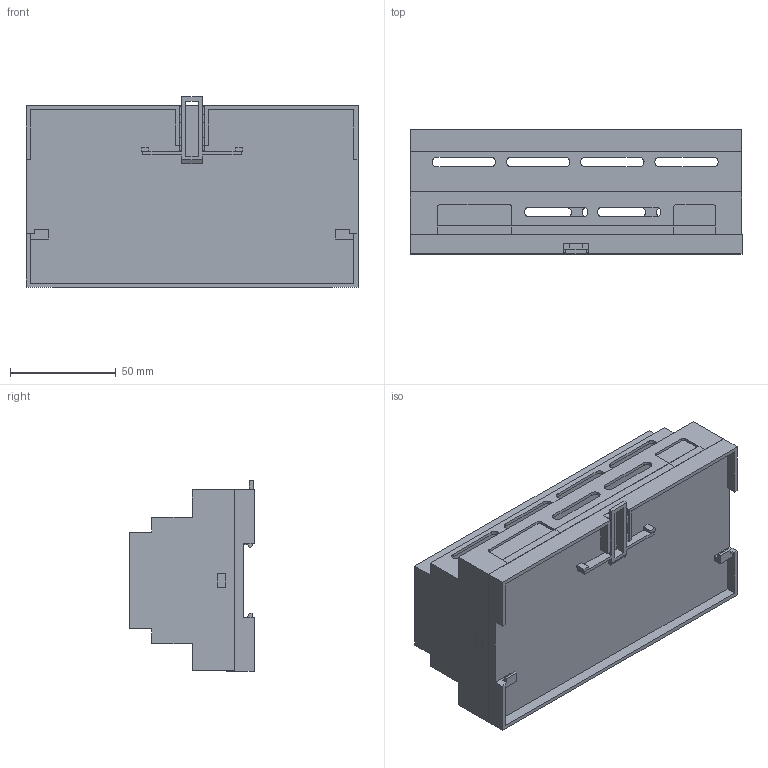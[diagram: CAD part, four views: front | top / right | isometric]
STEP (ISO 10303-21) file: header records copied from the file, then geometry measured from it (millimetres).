
FILE_DESCRIPTION((''),'2;1');
FILE_NAME('J:\WIP\Magpowr WEB\3D (Models)\Tension Controls\Power Supply Unit\PS-90\PS-90.stp','2013-09-30T14:30:13',('lzuniga'),(''),'Autodesk Inventor 2013','Autodesk Inventor 2013','');
FILE_SCHEMA(('AUTOMOTIVE_DESIGN { 1 0 10303 214 1 1 1 1 }'));
Length unit declared in the file: inch
Products named in the file (1): PS-90
Bounding box: 156.97 x 58.8 x 89.92 mm (x, y, z)
Volume: 192596.2 mm3; surface area: 97784.9 mm2
Topology: 1 solids, 1 shells, 830 faces, 2227 edges, 1480 vertices
Faces by surface type: plane 574, bspline 205, cylinder 51
Full cylindrical faces by diameter (mm): 3.175 x11
Entity records: 27487 total; most frequent: CARTESIAN_POINT 7741, ORIENTED_EDGE 4432, DIRECTION 3162, EDGE_CURVE 2216, VECTOR 1706, LINE 1706, VERTEX_POINT 1480, EDGE_LOOP 954
